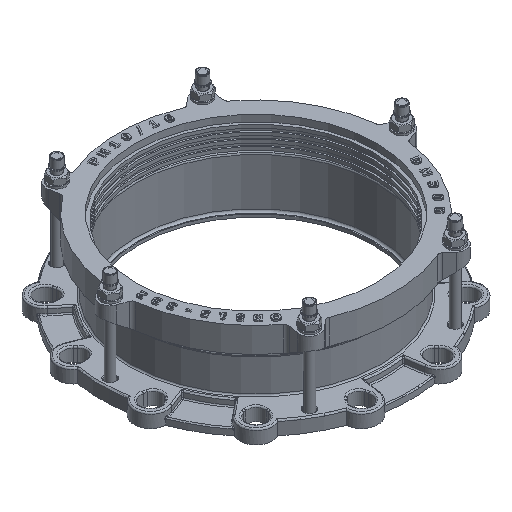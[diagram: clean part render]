
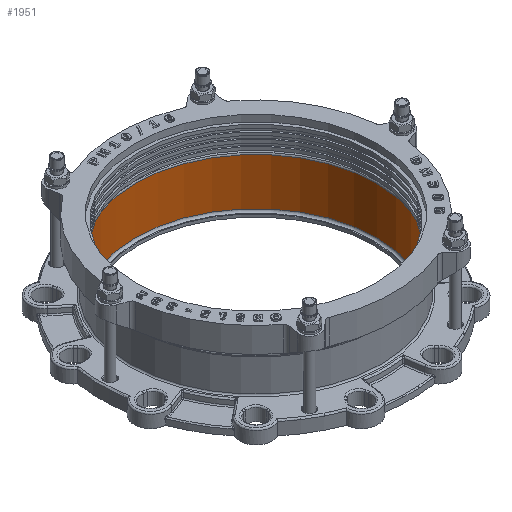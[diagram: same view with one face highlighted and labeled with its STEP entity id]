
A CAD part, isometric view. The second image highlights one B-rep face of the part: STEP entity #1951.
In plain terms, the highlighted cylindrical face has radius 166 mm (diameter 332 mm), a full revolution.
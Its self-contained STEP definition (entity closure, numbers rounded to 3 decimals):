
#1951=ADVANCED_FACE('',(#14009,#14011),#14013,.F.);
#14009=FACE_OUTER_BOUND('',#14010,.T.);
#14010=EDGE_LOOP('',(#21015));
#14011=FACE_OUTER_BOUND('',#14012,.T.);
#14012=EDGE_LOOP('',(#21016));
#14013=CYLINDRICAL_SURFACE('',#14014,166.);
#14014=AXIS2_PLACEMENT_3D('',#14015,#14016,#14017);
#14015=CARTESIAN_POINT('',(0.,0.,4.));
#14016=DIRECTION('',(0.,0.,1.));
#14017=DIRECTION('',(-1.,0.,0.));
#21015=ORIENTED_EDGE('',*,*,#26916,.F.);
#21016=ORIENTED_EDGE('',*,*,#26917,.T.);
#26916=EDGE_CURVE('',#30593,#30593,#30594,.T.);
#26917=EDGE_CURVE('',#30595,#30595,#30596,.F.);
#30593=VERTEX_POINT('',#43032);
#30594=CIRCLE('',#43033,166.);
#30595=VERTEX_POINT('',#43037);
#30596=CIRCLE('',#43038,166.);
#43032=CARTESIAN_POINT('',(0.,166.,71.5));
#43033=AXIS2_PLACEMENT_3D('',#43034,#43035,#43036);
#43034=CARTESIAN_POINT('',(0.,0.,71.5));
#43035=DIRECTION('',(0.,0.,-1.));
#43036=DIRECTION('',(0.,1.,0.));
#43037=CARTESIAN_POINT('',(0.,166.,7.));
#43038=AXIS2_PLACEMENT_3D('',#43039,#43040,#43041);
#43039=CARTESIAN_POINT('',(0.,0.,7.));
#43040=DIRECTION('',(0.,0.,1.));
#43041=DIRECTION('',(0.,1.,0.));
